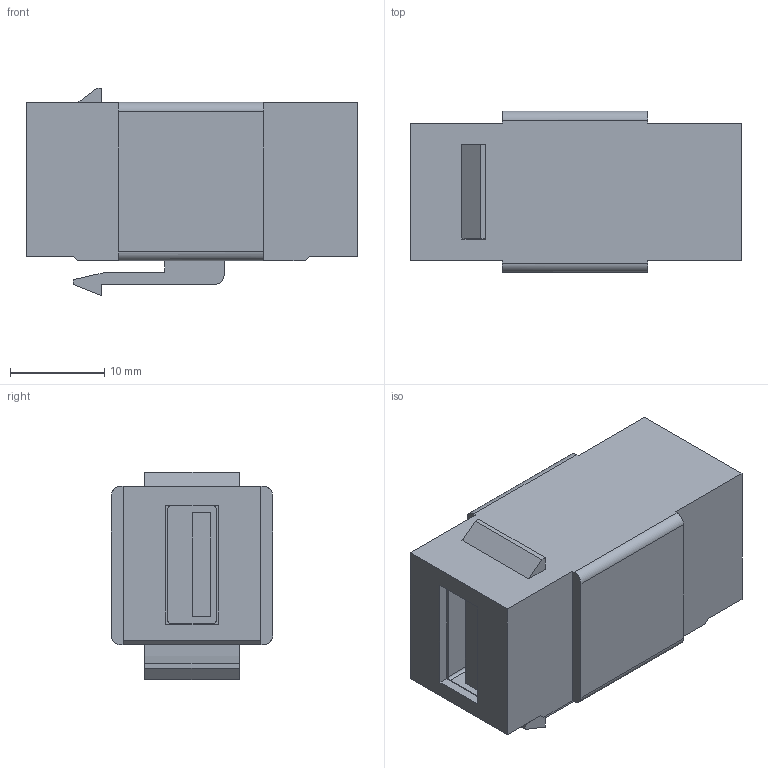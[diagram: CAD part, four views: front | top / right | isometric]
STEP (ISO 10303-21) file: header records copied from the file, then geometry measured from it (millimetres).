
FILE_DESCRIPTION( ('This file contains a STEP AP42 implementation' ,'as created by ZW3D STEP Interface translator.') ,'2;1' );
FILE_NAME( 'TB-028_210USB06N2xx_SD.stp' ,'26 330.134526', (''), ('ZWCAD Software Co.'), 'Version 1.0', 'ZW3D to STEP translator', '' );
FILE_SCHEMA(('AUTOMOTIVE_DESIGN'));
Length unit declared in the file: millimetre
Products named in the file (2): 0; TB-028_210USB06N2xx_SD
Bounding box: 35.2 x 17.1 x 22 mm (x, y, z)
Volume: 8610.1 mm3; surface area: 4311.1 mm2
Topology: 1 solids, 1 shells, 90 faces, 240 edges, 160 vertices
Faces by surface type: bspline 90
Entity records: 3892 total; most frequent: CARTESIAN_POINT 2281, ORIENTED_EDGE 480, B_SPLINE_CURVE_WITH_KNOTS 240, EDGE_CURVE 240, VERTEX_POINT 160, EDGE_LOOP 98, FACE_OUTER_BOUND 90, ADVANCED_FACE 90
